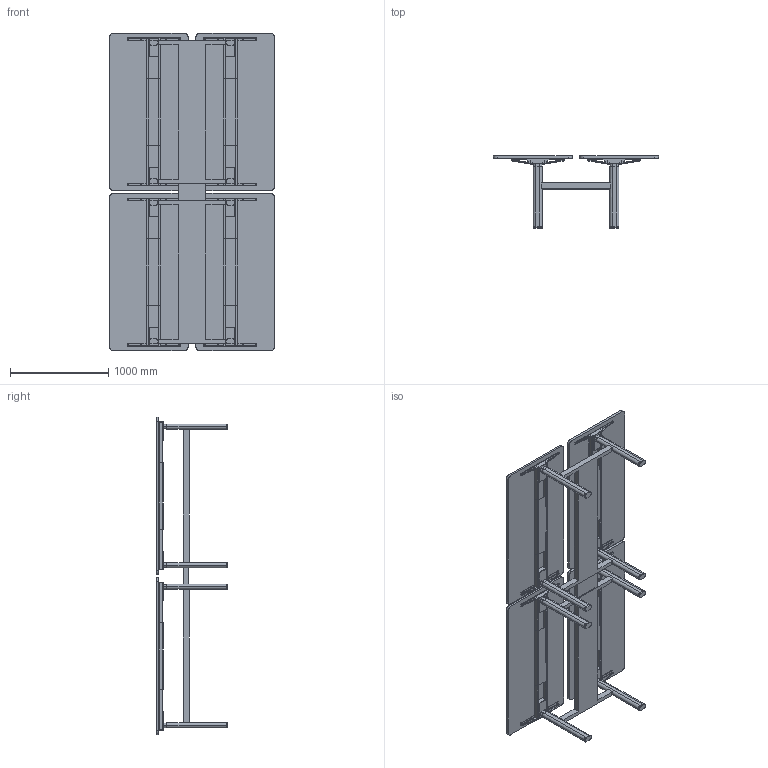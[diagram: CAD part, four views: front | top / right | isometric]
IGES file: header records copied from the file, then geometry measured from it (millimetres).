
Start section: SolidWorks IGES file using analytic representation for surfaces
Global section: file name: C:\Users\simone.cerana\OneDrive - Gruppo Tecno\Desktop\CHINA\DISEGNI DI SERIE\ASSIEMI LISTINO\AXIS LISTINO\AX3216ST.IGS; native system: SolidWorks 2024; preprocessor: SolidWorks 2024; author: simone.cerana; date: 260508.092010; units: millimetre
Bounding box: 1680 x 729.39 x 3230 mm (x, y, z)
Surface area: 17117681.1 mm2 (no closed solid volume)
Topology: 0 solids, 0 shells, 1086 faces, 12728 edges, 12712 vertices
Faces by surface type: revolution 544, bspline 542
